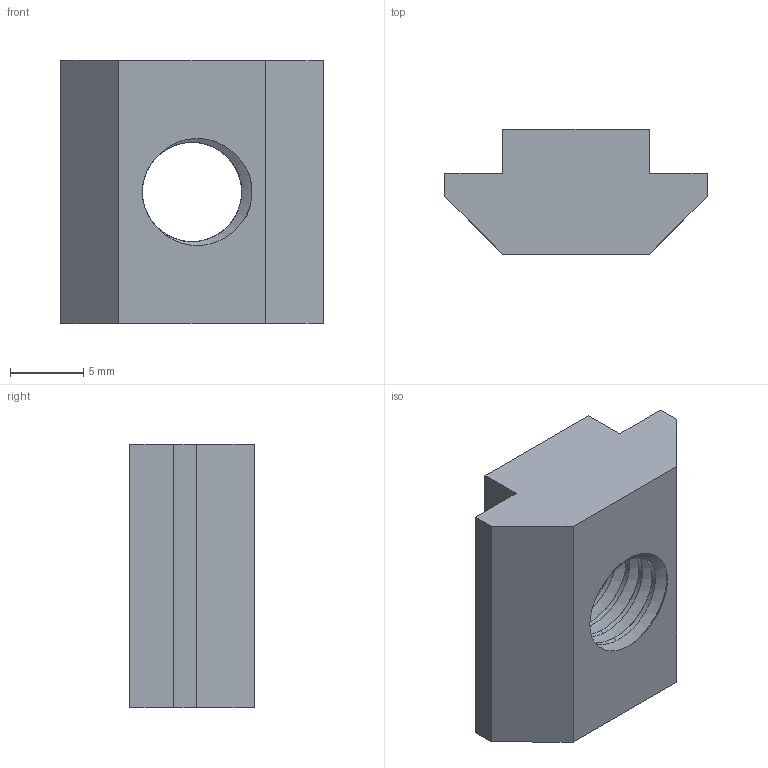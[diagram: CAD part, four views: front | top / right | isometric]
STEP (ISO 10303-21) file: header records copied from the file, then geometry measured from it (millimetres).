
FILE_DESCRIPTION(/* description */ ('STEP AP203'),/* implementation_level */ '2;1');
FILE_NAME(/* name */ 'M8 40 & 45 Series Roll In Nut - T-Slot - Zinc Plated.step',/* time_stamp */ '2024-08-20T23:35:37+03:00',/* author */ (''),/* organization */ (''),/* preprocessor_version */ 'ST-DEVELOPER v20',/* originating_system */ 'Autodesk Translation Framework v13.14.0.145',/* authorisation */ '');
FILE_SCHEMA (('AUTOMOTIVE_DESIGN { 1 0 10303 214 3 1 1 }'));
Length unit declared in the file: millimetre
Products named in the file (1): 2142.010.004
Bounding box: 17.9 x 8.5 x 18 mm (x, y, z)
Volume: 1669.8 mm3; surface area: 1332.2 mm2
Topology: 1 solids, 1 shells, 30 faces, 84 edges, 56 vertices
Faces by surface type: cylinder 16, plane 12, bspline 2
Full cylindrical faces by diameter (mm): 6.779 x4, 8.17 x2
Entity records: 2109 total; most frequent: CARTESIAN_POINT 1366, ORIENTED_EDGE 168, DIRECTION 112, EDGE_CURVE 84, VERTEX_POINT 56, LINE 44, VECTOR 44, B_SPLINE_CURVE_WITH_KNOTS 35
